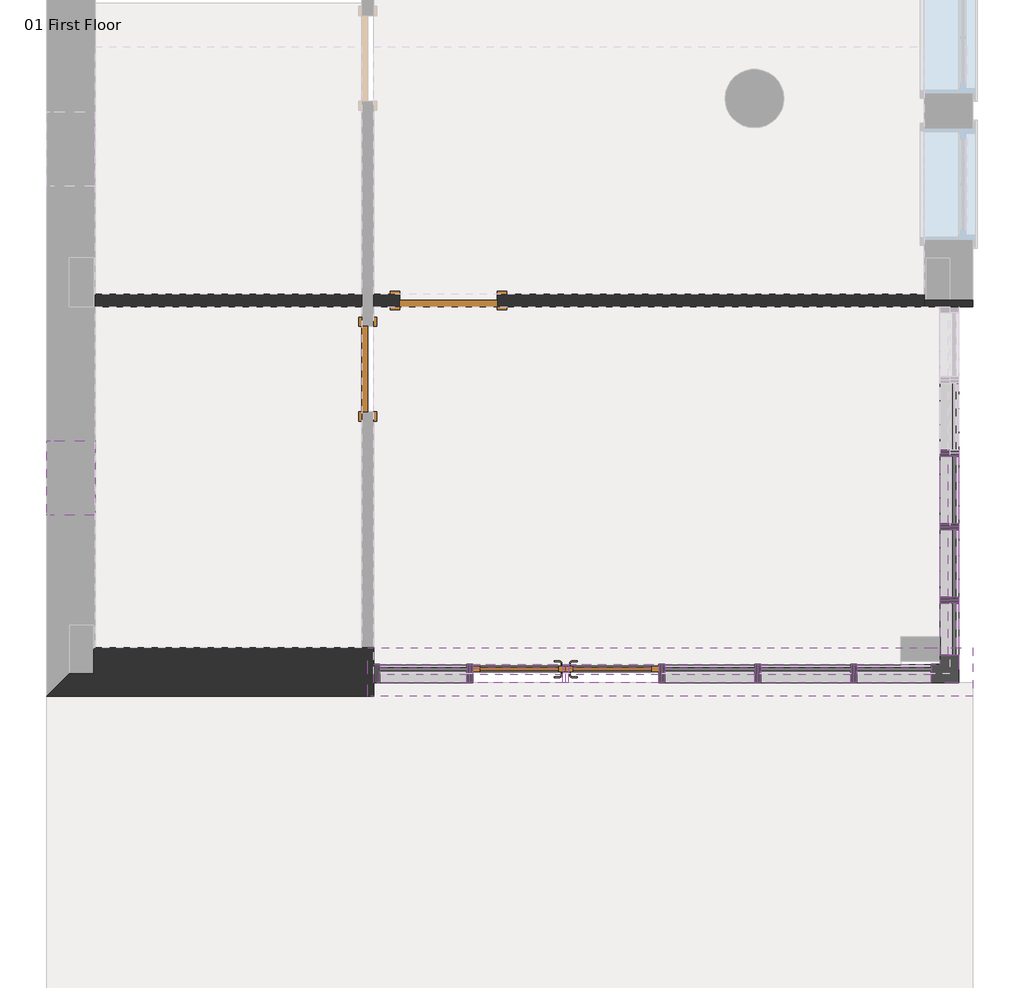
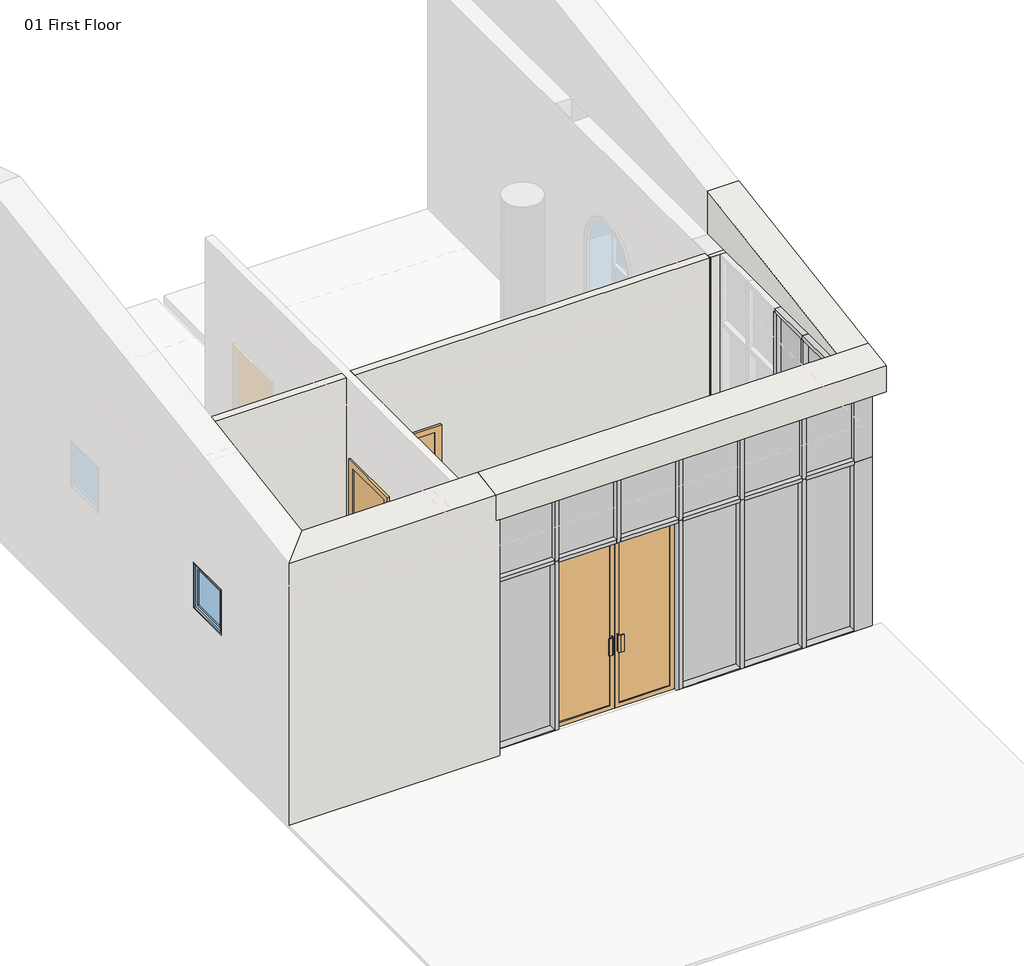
# One storey, part 1 of 3: 45 members, 16 plates, 4 walls, 3 doors, 1 window.
"""IFC4 building model written with IfcOpenShell, lengths in millimetres."""

from ifc_helpers import new_model, si_unit, origin, place, context, project, spatial, faceted_brep, transform, mapped, element, save
from components import m_door_curtain_wall_double_storefront_m_door_curtain_wall_a63655ac, m_single_flush_0700_x_2100mm_23326b45, m_single_flush_0800_x_2100mm_5931a049, l_corner_mullion_l_mullion_1_1d961c4e, l_corner_mullion_l_mullion_1_b63ad59a, rectangular_mullion_50_x_150mm_324a6438, rectangular_mullion_50_x_150mm_8753ce05, rectangular_mullion_50_x_150mm_f70f74d1, rectangular_mullion_50_x_150mm_f478ca5a, rectangular_mullion_50_x_150mm_1075d9c1, rectangular_mullion_50_x_150mm_e71c6a5f, rectangular_mullion_50_x_150mm_3a67f67c, rectangular_mullion_50_x_150mm_6f8b8c16, rectangular_mullion_50_x_150mm_ef0603af, rectangular_mullion_50_x_150mm_1d8f0c1a, rectangular_mullion_50_x_150mm_0200b82d, rectangular_mullion_50_x_150mm_2b21d210, rectangular_mullion_50_x_150mm_29e254ca, rectangular_mullion_50_x_150mm_14b52876, rectangular_mullion_50_x_150mm_9f0cf5c8, rectangular_mullion_50_x_150mm_be1420ea, rectangular_mullion_50_x_150mm_bf176b26, rectangular_mullion_50_x_150mm_20b6891b, rectangular_mullion_50_x_150mm_c032485d, rectangular_mullion_50_x_150mm_94435dd6, system_panel_glazed_9309a35e, system_panel_glazed_55cc88df, system_panel_glazed_1f9666d3, system_panel_glazed_d7ec0edf, system_panel_glazed_06e6dd14, system_panel_solid_3e9ab903, system_panel_solid_e0b174c6, system_panel_solid_286dc7ff, system_panel_solid_fd27a8c9, system_panel_solid_4de7fab2, m_fixed_0610_x_0610mm_08517cb4

model = new_model("IFC4")

# Units and contexts
model_context = context("Model", 3, world=origin())
ifc_project = project(units=[si_unit("LENGTHUNIT", "METRE", prefix="MILLI")], contexts=[model_context])

# Site, building, storey
site = spatial("IfcSite", under=ifc_project)
building = spatial("IfcBuilding", under=site)
storey = spatial("IfcBuildingStorey", under=building, Name="01 First Floor", Elevation=3500.0)

# Doors
placement = place(None, origin())
m_door_curtain_wall_double_storefront_m_door_curtain_wall_shape = m_door_curtain_wall_double_storefront_m_door_curtain_wall_a63655ac(model_context)
element("IfcDoor", 1, ObjectType="M_Door-Curtain-Wall-Double-Storefront : M_Door-Curtain-Wall-Double-Storefront", at=placement, inside=storey, context=model_context, shape_type="MappedRepresentation", body=[
    mapped(m_door_curtain_wall_double_storefront_m_door_curtain_wall_shape, transform((-4264.2074665, -3062.7101648, 3500.0), x_axis=(1.0, 0.0, 0.0), y_axis=(0.0, 1.0, 0.0), z_axis=(0.0, 0.0, 1.0))),
])
m_single_flush_0700_x_2100mm_shape = m_single_flush_0700_x_2100mm_23326b45(model_context)
element("IfcDoor", 2, ObjectType="M_Single-Flush : 0700 x 2100mm", at=placement, inside=storey, context=model_context, shape_type="MappedRepresentation", body=[
    mapped(m_single_flush_0700_x_2100mm_shape, transform((-5882.5407999, -574.1267294, 3500.0), x_axis=(0.0, 1.0, 0.0), y_axis=(-1.0, 0.0, 0.0), z_axis=(0.0, 0.0, 1.0))),
])
m_single_flush_0800_x_2100mm_shape = m_single_flush_0800_x_2100mm_5931a049(model_context)
element("IfcDoor", 3, ObjectType="M_Single-Flush : 0800 x 2100mm", at=placement, inside=storey, context=model_context, shape_type="MappedRepresentation", body=[
    mapped(m_single_flush_0800_x_2100mm_shape, transform((-5222.5407999, -12.7101648, 3500.0), x_axis=(-1.0, 0.0, 0.0), y_axis=(0.0, -1.0, 0.0), z_axis=(0.0, 0.0, 1.0))),
])

# Members
l_corner_mullion_l_mullion_1_shape = l_corner_mullion_l_mullion_1_1d961c4e(model_context)
element("IfcMember", 4, ObjectType="L Corner Mullion : L Mullion 1", at=placement, inside=storey, context=model_context, shape_type="MappedRepresentation", body=[
    mapped(l_corner_mullion_l_mullion_1_shape, transform((-1127.5407999, -3062.7101648, 5800.0), x_axis=(0.0, -1.0, 0.0), y_axis=(1.0, 0.0, 0.0), z_axis=(0.0, 0.0, 1.0))),
])
l_corner_mullion_l_mullion_1_2_shape = l_corner_mullion_l_mullion_1_b63ad59a(model_context)
element("IfcMember", 5, ObjectType="L Corner Mullion : L Mullion 1", at=placement, inside=storey, context=model_context, shape_type="MappedRepresentation", body=[
    mapped(l_corner_mullion_l_mullion_1_2_shape, transform((-1127.5407999, -3062.7101648, 6700.0), x_axis=(0.0, -1.0, 0.0), y_axis=(1.0, 0.0, 0.0), z_axis=(0.0, 0.0, 1.0))),
])
rectangular_mullion_50_x_150mm_shape = rectangular_mullion_50_x_150mm_324a6438(model_context)
element("IfcMember", 6, ObjectType="Rectangular Mullion : 50 x 150mm", at=placement, inside=storey, context=model_context, shape_type="MappedRepresentation", body=[
    mapped(rectangular_mullion_50_x_150mm_shape, transform((-5832.5407999, -3062.7101648, 6650.0), x_axis=(-1.0, 0.0, 0.0), y_axis=(0.0, -1.0, 0.0), z_axis=(0.0, 0.0, 1.0))),
])
rectangular_mullion_50_x_150mm_2_shape = rectangular_mullion_50_x_150mm_8753ce05(model_context)
element("IfcMember", 7, ObjectType="Rectangular Mullion : 50 x 150mm", at=placement, inside=storey, context=model_context, shape_type="MappedRepresentation", body=[
    mapped(rectangular_mullion_50_x_150mm_2_shape, transform((-5832.5407999, -3062.7101648, 5800.0), x_axis=(-1.0, 0.0, 0.0), y_axis=(0.0, -1.0, 0.0), z_axis=(0.0, 0.0, 1.0))),
])
rectangular_mullion_50_x_150mm_3_shape = rectangular_mullion_50_x_150mm_f70f74d1(model_context)
element("IfcMember", 8, ObjectType="Rectangular Mullion : 50 x 150mm", at=placement, inside=storey, context=model_context, shape_type="MappedRepresentation", body=[
    mapped(rectangular_mullion_50_x_150mm_3_shape, transform((-5048.3741331, -3062.7101648, 3500.0), x_axis=(1.0, 0.0, 0.0), y_axis=(0.0, -1.0, 0.0), z_axis=(0.0, 0.0, -1.0))),
])
element("IfcMember", 9, ObjectType="Rectangular Mullion : 50 x 150mm", at=placement, inside=storey, context=model_context, shape_type="MappedRepresentation", body=[
    mapped(rectangular_mullion_50_x_150mm_3_shape, transform((-3480.0407999, -3062.7101648, 3500.0), x_axis=(1.0, 0.0, 0.0), y_axis=(0.0, -1.0, 0.0), z_axis=(0.0, 0.0, -1.0))),
])
element("IfcMember", 10, ObjectType="Rectangular Mullion : 50 x 150mm", at=placement, inside=storey, context=model_context, shape_type="MappedRepresentation", body=[
    mapped(rectangular_mullion_50_x_150mm_3_shape, transform((-2695.8741334, -3062.7101648, 3500.0), x_axis=(1.0, 0.0, 0.0), y_axis=(0.0, -1.0, 0.0), z_axis=(0.0, 0.0, -1.0))),
])
element("IfcMember", 11, ObjectType="Rectangular Mullion : 50 x 150mm", at=placement, inside=storey, context=model_context, shape_type="MappedRepresentation", body=[
    mapped(rectangular_mullion_50_x_150mm_3_shape, transform((-1911.7074668, -3062.7101648, 3500.0), x_axis=(1.0, 0.0, 0.0), y_axis=(0.0, -1.0, 0.0), z_axis=(0.0, 0.0, -1.0))),
])
rectangular_mullion_50_x_150mm_4_shape = rectangular_mullion_50_x_150mm_f478ca5a(model_context)
element("IfcMember", 12, ObjectType="Rectangular Mullion : 50 x 150mm", at=placement, inside=storey, context=model_context, shape_type="MappedRepresentation", body=[
    mapped(rectangular_mullion_50_x_150mm_4_shape, transform((-5048.3741331, -3062.7101648, 5800.0), x_axis=(1.0, 0.0, 0.0), y_axis=(0.0, -1.0, 0.0), z_axis=(0.0, 0.0, -1.0))),
])
element("IfcMember", 13, ObjectType="Rectangular Mullion : 50 x 150mm", at=placement, inside=storey, context=model_context, shape_type="MappedRepresentation", body=[
    mapped(rectangular_mullion_50_x_150mm_4_shape, transform((-3480.0407999, -3062.7101648, 5800.0), x_axis=(1.0, 0.0, 0.0), y_axis=(0.0, -1.0, 0.0), z_axis=(0.0, 0.0, -1.0))),
])
element("IfcMember", 14, ObjectType="Rectangular Mullion : 50 x 150mm", at=placement, inside=storey, context=model_context, shape_type="MappedRepresentation", body=[
    mapped(rectangular_mullion_50_x_150mm_4_shape, transform((-2695.8741334, -3062.7101648, 5800.0), x_axis=(1.0, 0.0, 0.0), y_axis=(0.0, -1.0, 0.0), z_axis=(0.0, 0.0, -1.0))),
])
element("IfcMember", 15, ObjectType="Rectangular Mullion : 50 x 150mm", at=placement, inside=storey, context=model_context, shape_type="MappedRepresentation", body=[
    mapped(rectangular_mullion_50_x_150mm_4_shape, transform((-1911.7074668, -3062.7101648, 5800.0), x_axis=(1.0, 0.0, 0.0), y_axis=(0.0, -1.0, 0.0), z_axis=(0.0, 0.0, -1.0))),
])
rectangular_mullion_50_x_150mm_5_shape = rectangular_mullion_50_x_150mm_1075d9c1(model_context)
element("IfcMember", 16, ObjectType="Rectangular Mullion : 50 x 150mm", at=placement, inside=storey, context=model_context, shape_type="MappedRepresentation", body=[
    mapped(rectangular_mullion_50_x_150mm_5_shape, transform((-4264.2074665, -3062.7101648, 5775.0), x_axis=(1.0, 0.0, 0.0), y_axis=(0.0, -1.0, 0.0), z_axis=(0.0, 0.0, -1.0))),
])
element("IfcMember", 17, ObjectType="Rectangular Mullion : 50 x 150mm", at=placement, inside=storey, context=model_context, shape_type="MappedRepresentation", body=[
    mapped(rectangular_mullion_50_x_150mm_3_shape, transform((-1127.5407999, -2462.7101646, 3500.0), x_axis=(0.0, 1.0, 0.0), y_axis=(1.0, 0.0, 0.0), z_axis=(0.0, 0.0, -1.0))),
])
element("IfcMember", 18, ObjectType="Rectangular Mullion : 50 x 150mm", at=placement, inside=storey, context=model_context, shape_type="MappedRepresentation", body=[
    mapped(rectangular_mullion_50_x_150mm_3_shape, transform((-1127.5407999, -1862.7101647, 3500.0), x_axis=(0.0, 1.0, 0.0), y_axis=(1.0, 0.0, 0.0), z_axis=(0.0, 0.0, -1.0))),
])
element("IfcMember", 19, ObjectType="Rectangular Mullion : 50 x 150mm", at=placement, inside=storey, context=model_context, shape_type="MappedRepresentation", body=[
    mapped(rectangular_mullion_50_x_150mm_3_shape, transform((-1127.5407999, -1262.7101648, 3500.0), x_axis=(0.0, 1.0, 0.0), y_axis=(1.0, 0.0, 0.0), z_axis=(0.0, 0.0, -1.0))),
])
element("IfcMember", 20, ObjectType="Rectangular Mullion : 50 x 150mm", at=placement, inside=storey, context=model_context, shape_type="MappedRepresentation", body=[
    mapped(rectangular_mullion_50_x_150mm_4_shape, transform((-1127.5407999, -2462.7101646, 5800.0), x_axis=(0.0, 1.0, 0.0), y_axis=(1.0, 0.0, 0.0), z_axis=(0.0, 0.0, -1.0))),
])
element("IfcMember", 21, ObjectType="Rectangular Mullion : 50 x 150mm", at=placement, inside=storey, context=model_context, shape_type="MappedRepresentation", body=[
    mapped(rectangular_mullion_50_x_150mm_4_shape, transform((-1127.5407999, -1862.7101647, 5800.0), x_axis=(0.0, 1.0, 0.0), y_axis=(1.0, 0.0, 0.0), z_axis=(0.0, 0.0, -1.0))),
])
element("IfcMember", 22, ObjectType="Rectangular Mullion : 50 x 150mm", at=placement, inside=storey, context=model_context, shape_type="MappedRepresentation", body=[
    mapped(rectangular_mullion_50_x_150mm_4_shape, transform((-1127.5407999, -1262.7101648, 5800.0), x_axis=(0.0, 1.0, 0.0), y_axis=(1.0, 0.0, 0.0), z_axis=(0.0, 0.0, -1.0))),
])
rectangular_mullion_50_x_150mm_6_shape = rectangular_mullion_50_x_150mm_e71c6a5f(model_context)
element("IfcMember", 23, ObjectType="Rectangular Mullion : 50 x 150mm", at=placement, inside=storey, context=model_context, shape_type="MappedRepresentation", body=[
    mapped(rectangular_mullion_50_x_150mm_6_shape, transform((-1127.5407999, -2912.7101648, 3500.0), x_axis=(0.0, 0.0, -1.0), y_axis=(1.0, 0.0, 0.0), z_axis=(0.0, -1.0, 0.0))),
])
rectangular_mullion_50_x_150mm_7_shape = rectangular_mullion_50_x_150mm_3a67f67c(model_context)
element("IfcMember", 24, ObjectType="Rectangular Mullion : 50 x 150mm", at=placement, inside=storey, context=model_context, shape_type="MappedRepresentation", body=[
    mapped(rectangular_mullion_50_x_150mm_7_shape, transform((-1127.5407999, -2462.7101646, 6700.0), x_axis=(0.0, 0.0, 1.0), y_axis=(1.0, 0.0, 0.0), z_axis=(0.0, 1.0, 0.0))),
])
rectangular_mullion_50_x_150mm_8_shape = rectangular_mullion_50_x_150mm_6f8b8c16(model_context)
element("IfcMember", 25, ObjectType="Rectangular Mullion : 50 x 150mm", at=placement, inside=storey, context=model_context, shape_type="MappedRepresentation", body=[
    mapped(rectangular_mullion_50_x_150mm_8_shape, transform((-1127.5407999, -1862.7101647, 6700.0), x_axis=(0.0, 0.0, 1.0), y_axis=(1.0, 0.0, 0.0), z_axis=(0.0, 1.0, 0.0))),
])
element("IfcMember", 26, ObjectType="Rectangular Mullion : 50 x 150mm", at=placement, inside=storey, context=model_context, shape_type="MappedRepresentation", body=[
    mapped(rectangular_mullion_50_x_150mm_8_shape, transform((-1127.5407999, -1262.7101648, 6700.0), x_axis=(0.0, 0.0, 1.0), y_axis=(1.0, 0.0, 0.0), z_axis=(0.0, 1.0, 0.0))),
])
rectangular_mullion_50_x_150mm_9_shape = rectangular_mullion_50_x_150mm_ef0603af(model_context)
element("IfcMember", 27, ObjectType="Rectangular Mullion : 50 x 150mm", at=placement, inside=storey, context=model_context, shape_type="MappedRepresentation", body=[
    mapped(rectangular_mullion_50_x_150mm_9_shape, transform((-1127.5407999, -2437.7101646, 3500.0), x_axis=(0.0, 0.0, -1.0), y_axis=(1.0, 0.0, 0.0), z_axis=(0.0, -1.0, 0.0))),
])
element("IfcMember", 28, ObjectType="Rectangular Mullion : 50 x 150mm", at=placement, inside=storey, context=model_context, shape_type="MappedRepresentation", body=[
    mapped(rectangular_mullion_50_x_150mm_9_shape, transform((-1127.5407999, -1837.7101647, 3500.0), x_axis=(0.0, 0.0, -1.0), y_axis=(1.0, 0.0, 0.0), z_axis=(0.0, -1.0, 0.0))),
])
element("IfcMember", 29, ObjectType="Rectangular Mullion : 50 x 150mm", at=placement, inside=storey, context=model_context, shape_type="MappedRepresentation", body=[
    mapped(rectangular_mullion_50_x_150mm_9_shape, transform((-1127.5407999, -1237.7101648, 3500.0), x_axis=(0.0, 0.0, -1.0), y_axis=(1.0, 0.0, 0.0), z_axis=(0.0, -1.0, 0.0))),
])
rectangular_mullion_50_x_150mm_10_shape = rectangular_mullion_50_x_150mm_1d8f0c1a(model_context)
element("IfcMember", 30, ObjectType="Rectangular Mullion : 50 x 150mm", at=placement, inside=storey, context=model_context, shape_type="MappedRepresentation", body=[
    mapped(rectangular_mullion_50_x_150mm_10_shape, transform((-1127.5407999, -2487.7101646, 5800.0), x_axis=(0.0, 0.0, 1.0), y_axis=(1.0, 0.0, 0.0), z_axis=(0.0, 1.0, 0.0))),
])
rectangular_mullion_50_x_150mm_11_shape = rectangular_mullion_50_x_150mm_0200b82d(model_context)
element("IfcMember", 31, ObjectType="Rectangular Mullion : 50 x 150mm", at=placement, inside=storey, context=model_context, shape_type="MappedRepresentation", body=[
    mapped(rectangular_mullion_50_x_150mm_11_shape, transform((-1127.5407999, -1887.7101647, 5800.0), x_axis=(0.0, 0.0, 1.0), y_axis=(1.0, 0.0, 0.0), z_axis=(0.0, 1.0, 0.0))),
])
element("IfcMember", 32, ObjectType="Rectangular Mullion : 50 x 150mm", at=placement, inside=storey, context=model_context, shape_type="MappedRepresentation", body=[
    mapped(rectangular_mullion_50_x_150mm_11_shape, transform((-1127.5407999, -1287.7101648, 5800.0), x_axis=(0.0, 0.0, 1.0), y_axis=(1.0, 0.0, 0.0), z_axis=(0.0, 1.0, 0.0))),
])
rectangular_mullion_50_x_150mm_12_shape = rectangular_mullion_50_x_150mm_2b21d210(model_context)
element("IfcMember", 33, ObjectType="Rectangular Mullion : 50 x 150mm", at=placement, inside=storey, context=model_context, shape_type="MappedRepresentation", body=[
    mapped(rectangular_mullion_50_x_150mm_12_shape, transform((-1277.5407999, -3062.7101648, 6700.0), x_axis=(0.0, 0.0, 1.0), y_axis=(0.0, -1.0, 0.0), z_axis=(1.0, 0.0, 0.0))),
])
rectangular_mullion_50_x_150mm_13_shape = rectangular_mullion_50_x_150mm_29e254ca(model_context)
element("IfcMember", 34, ObjectType="Rectangular Mullion : 50 x 150mm", at=placement, inside=storey, context=model_context, shape_type="MappedRepresentation", body=[
    mapped(rectangular_mullion_50_x_150mm_13_shape, transform((-5782.5407999, -3062.7101648, 3500.0), x_axis=(0.0, 0.0, -1.0), y_axis=(0.0, -1.0, 0.0), z_axis=(-1.0, 0.0, 0.0))),
])
rectangular_mullion_50_x_150mm_14_shape = rectangular_mullion_50_x_150mm_14b52876(model_context)
element("IfcMember", 35, ObjectType="Rectangular Mullion : 50 x 150mm", at=placement, inside=storey, context=model_context, shape_type="MappedRepresentation", body=[
    mapped(rectangular_mullion_50_x_150mm_14_shape, transform((-5048.3741331, -3062.7101648, 6700.0), x_axis=(0.0, 0.0, 1.0), y_axis=(0.0, -1.0, 0.0), z_axis=(1.0, 0.0, 0.0))),
])
rectangular_mullion_50_x_150mm_15_shape = rectangular_mullion_50_x_150mm_9f0cf5c8(model_context)
element("IfcMember", 36, ObjectType="Rectangular Mullion : 50 x 150mm", at=placement, inside=storey, context=model_context, shape_type="MappedRepresentation", body=[
    mapped(rectangular_mullion_50_x_150mm_15_shape, transform((-4264.2074665, -3062.7101648, 6700.0), x_axis=(0.0, 0.0, 1.0), y_axis=(0.0, -1.0, 0.0), z_axis=(1.0, 0.0, 0.0))),
])
element("IfcMember", 37, ObjectType="Rectangular Mullion : 50 x 150mm", at=placement, inside=storey, context=model_context, shape_type="MappedRepresentation", body=[
    mapped(rectangular_mullion_50_x_150mm_15_shape, transform((-3480.0407999, -3062.7101648, 6700.0), x_axis=(0.0, 0.0, 1.0), y_axis=(0.0, -1.0, 0.0), z_axis=(1.0, 0.0, 0.0))),
])
element("IfcMember", 38, ObjectType="Rectangular Mullion : 50 x 150mm", at=placement, inside=storey, context=model_context, shape_type="MappedRepresentation", body=[
    mapped(rectangular_mullion_50_x_150mm_15_shape, transform((-2695.8741334, -3062.7101648, 6700.0), x_axis=(0.0, 0.0, 1.0), y_axis=(0.0, -1.0, 0.0), z_axis=(1.0, 0.0, 0.0))),
])
element("IfcMember", 39, ObjectType="Rectangular Mullion : 50 x 150mm", at=placement, inside=storey, context=model_context, shape_type="MappedRepresentation", body=[
    mapped(rectangular_mullion_50_x_150mm_15_shape, transform((-1911.7074668, -3062.7101648, 6700.0), x_axis=(0.0, 0.0, 1.0), y_axis=(0.0, -1.0, 0.0), z_axis=(1.0, 0.0, 0.0))),
])
rectangular_mullion_50_x_150mm_16_shape = rectangular_mullion_50_x_150mm_be1420ea(model_context)
element("IfcMember", 40, ObjectType="Rectangular Mullion : 50 x 150mm", at=placement, inside=storey, context=model_context, shape_type="MappedRepresentation", body=[
    mapped(rectangular_mullion_50_x_150mm_16_shape, transform((-3455.0407999, -3062.7101648, 3500.0), x_axis=(0.0, 0.0, -1.0), y_axis=(0.0, -1.0, 0.0), z_axis=(-1.0, 0.0, 0.0))),
])
element("IfcMember", 41, ObjectType="Rectangular Mullion : 50 x 150mm", at=placement, inside=storey, context=model_context, shape_type="MappedRepresentation", body=[
    mapped(rectangular_mullion_50_x_150mm_16_shape, transform((-2670.8741334, -3062.7101648, 3500.0), x_axis=(0.0, 0.0, -1.0), y_axis=(0.0, -1.0, 0.0), z_axis=(-1.0, 0.0, 0.0))),
])
rectangular_mullion_50_x_150mm_17_shape = rectangular_mullion_50_x_150mm_bf176b26(model_context)
element("IfcMember", 42, ObjectType="Rectangular Mullion : 50 x 150mm", at=placement, inside=storey, context=model_context, shape_type="MappedRepresentation", body=[
    mapped(rectangular_mullion_50_x_150mm_17_shape, transform((-5073.3741331, -3062.7101648, 5800.0), x_axis=(0.0, 0.0, 1.0), y_axis=(0.0, -1.0, 0.0), z_axis=(1.0, 0.0, 0.0))),
])
rectangular_mullion_50_x_150mm_18_shape = rectangular_mullion_50_x_150mm_20b6891b(model_context)
element("IfcMember", 43, ObjectType="Rectangular Mullion : 50 x 150mm", at=placement, inside=storey, context=model_context, shape_type="MappedRepresentation", body=[
    mapped(rectangular_mullion_50_x_150mm_18_shape, transform((-4289.2074665, -3062.7101648, 5800.0), x_axis=(0.0, 0.0, 1.0), y_axis=(0.0, -1.0, 0.0), z_axis=(1.0, 0.0, 0.0))),
])
element("IfcMember", 44, ObjectType="Rectangular Mullion : 50 x 150mm", at=placement, inside=storey, context=model_context, shape_type="MappedRepresentation", body=[
    mapped(rectangular_mullion_50_x_150mm_18_shape, transform((-3505.0407999, -3062.7101648, 5800.0), x_axis=(0.0, 0.0, 1.0), y_axis=(0.0, -1.0, 0.0), z_axis=(1.0, 0.0, 0.0))),
])
element("IfcMember", 45, ObjectType="Rectangular Mullion : 50 x 150mm", at=placement, inside=storey, context=model_context, shape_type="MappedRepresentation", body=[
    mapped(rectangular_mullion_50_x_150mm_18_shape, transform((-2720.8741334, -3062.7101648, 5800.0), x_axis=(0.0, 0.0, 1.0), y_axis=(0.0, -1.0, 0.0), z_axis=(1.0, 0.0, 0.0))),
])
element("IfcMember", 46, ObjectType="Rectangular Mullion : 50 x 150mm", at=placement, inside=storey, context=model_context, shape_type="MappedRepresentation", body=[
    mapped(rectangular_mullion_50_x_150mm_18_shape, transform((-1936.7074668, -3062.7101648, 5800.0), x_axis=(0.0, 0.0, 1.0), y_axis=(0.0, -1.0, 0.0), z_axis=(1.0, 0.0, 0.0))),
])
rectangular_mullion_50_x_150mm_19_shape = rectangular_mullion_50_x_150mm_c032485d(model_context)
element("IfcMember", 47, ObjectType="Rectangular Mullion : 50 x 150mm", at=placement, inside=storey, context=model_context, shape_type="MappedRepresentation", body=[
    mapped(rectangular_mullion_50_x_150mm_19_shape, transform((-1886.7074668, -3062.7101648, 3500.0), x_axis=(0.0, 0.0, -1.0), y_axis=(0.0, -1.0, 0.0), z_axis=(-1.0, 0.0, 0.0))),
])
rectangular_mullion_50_x_150mm_20_shape = rectangular_mullion_50_x_150mm_94435dd6(model_context)
element("IfcMember", 48, ObjectType="Rectangular Mullion : 50 x 150mm", at=placement, inside=storey, context=model_context, shape_type="MappedRepresentation", body=[
    mapped(rectangular_mullion_50_x_150mm_20_shape, transform((-1277.5407999, -3062.7101648, 5800.0), x_axis=(0.0, 0.0, 1.0), y_axis=(0.0, -1.0, 0.0), z_axis=(1.0, 0.0, 0.0))),
])

# Plates
system_panel_glazed_shape = system_panel_glazed_9309a35e(model_context)
element("IfcPlate", 49, ObjectType="System Panel : Glazed", at=placement, inside=storey, context=model_context, shape_type="MappedRepresentation", body=[
    mapped(system_panel_glazed_shape, transform((-1127.5407999, -2700.2101647, 3550.0), x_axis=(0.0, 1.0, 0.0), y_axis=(-1.0, 0.0, 0.0), z_axis=(0.0, 0.0, 1.0))),
])
system_panel_glazed_2_shape = system_panel_glazed_55cc88df(model_context)
element("IfcPlate", 50, ObjectType="System Panel : Glazed", at=placement, inside=storey, context=model_context, shape_type="MappedRepresentation", body=[
    mapped(system_panel_glazed_2_shape, transform((-1127.5407999, -2162.7101646, 3550.0), x_axis=(0.0, 1.0, 0.0), y_axis=(-1.0, 0.0, 0.0), z_axis=(0.0, 0.0, 1.0))),
])
element("IfcPlate", 51, ObjectType="System Panel : Glazed", at=placement, inside=storey, context=model_context, shape_type="MappedRepresentation", body=[
    mapped(system_panel_glazed_2_shape, transform((-1127.5407999, -1562.7101648, 3550.0), x_axis=(0.0, 1.0, 0.0), y_axis=(-1.0, 0.0, 0.0), z_axis=(0.0, 0.0, 1.0))),
])
system_panel_glazed_3_shape = system_panel_glazed_1f9666d3(model_context)
element("IfcPlate", 52, ObjectType="System Panel : Glazed", at=placement, inside=storey, context=model_context, shape_type="MappedRepresentation", body=[
    mapped(system_panel_glazed_3_shape, transform((-5427.9574665, -3062.7101648, 3550.0), x_axis=(1.0, 0.0, 0.0), y_axis=(0.0, 1.0, 0.0), z_axis=(0.0, 0.0, 1.0))),
])
system_panel_glazed_4_shape = system_panel_glazed_d7ec0edf(model_context)
element("IfcPlate", 53, ObjectType="System Panel : Glazed", at=placement, inside=storey, context=model_context, shape_type="MappedRepresentation", body=[
    mapped(system_panel_glazed_4_shape, transform((-3087.9574667, -3062.7101648, 3550.0), x_axis=(1.0, 0.0, 0.0), y_axis=(0.0, 1.0, 0.0), z_axis=(0.0, 0.0, 1.0))),
])
element("IfcPlate", 54, ObjectType="System Panel : Glazed", at=placement, inside=storey, context=model_context, shape_type="MappedRepresentation", body=[
    mapped(system_panel_glazed_4_shape, transform((-2303.7908001, -3062.7101648, 3550.0), x_axis=(1.0, 0.0, 0.0), y_axis=(0.0, 1.0, 0.0), z_axis=(0.0, 0.0, 1.0))),
])
system_panel_glazed_5_shape = system_panel_glazed_06e6dd14(model_context)
element("IfcPlate", 55, ObjectType="System Panel : Glazed", at=placement, inside=storey, context=model_context, shape_type="MappedRepresentation", body=[
    mapped(system_panel_glazed_5_shape, transform((-1582.1241334, -3062.7101648, 3550.0), x_axis=(1.0, 0.0, 0.0), y_axis=(0.0, 1.0, 0.0), z_axis=(0.0, 0.0, 1.0))),
])
system_panel_solid_shape = system_panel_solid_3e9ab903(model_context)
element("IfcPlate", 56, ObjectType="System Panel : Solid", at=placement, inside=storey, context=model_context, shape_type="MappedRepresentation", body=[
    mapped(system_panel_solid_shape, transform((-1127.5407999, -2700.2101647, 5825.0), x_axis=(0.0, 1.0, 0.0), y_axis=(-1.0, 0.0, 0.0), z_axis=(0.0, 0.0, 1.0))),
])
system_panel_solid_2_shape = system_panel_solid_e0b174c6(model_context)
element("IfcPlate", 57, ObjectType="System Panel : Solid", at=placement, inside=storey, context=model_context, shape_type="MappedRepresentation", body=[
    mapped(system_panel_solid_2_shape, transform((-1127.5407999, -2162.7101646, 5825.0), x_axis=(0.0, 1.0, 0.0), y_axis=(-1.0, 0.0, 0.0), z_axis=(0.0, 0.0, 1.0))),
])
element("IfcPlate", 58, ObjectType="System Panel : Solid", at=placement, inside=storey, context=model_context, shape_type="MappedRepresentation", body=[
    mapped(system_panel_solid_2_shape, transform((-1127.5407999, -1562.7101648, 5825.0), x_axis=(0.0, 1.0, 0.0), y_axis=(-1.0, 0.0, 0.0), z_axis=(0.0, 0.0, 1.0))),
])
system_panel_solid_3_shape = system_panel_solid_286dc7ff(model_context)
element("IfcPlate", 59, ObjectType="System Panel : Solid", at=placement, inside=storey, context=model_context, shape_type="MappedRepresentation", body=[
    mapped(system_panel_solid_3_shape, transform((-5427.9574665, -3062.7101648, 5825.0), x_axis=(1.0, 0.0, 0.0), y_axis=(0.0, 1.0, 0.0), z_axis=(0.0, 0.0, 1.0))),
])
system_panel_solid_4_shape = system_panel_solid_fd27a8c9(model_context)
element("IfcPlate", 60, ObjectType="System Panel : Solid", at=placement, inside=storey, context=model_context, shape_type="MappedRepresentation", body=[
    mapped(system_panel_solid_4_shape, transform((-4656.2907998, -3062.7101648, 5825.0), x_axis=(1.0, 0.0, 0.0), y_axis=(0.0, 1.0, 0.0), z_axis=(0.0, 0.0, 1.0))),
])
element("IfcPlate", 61, ObjectType="System Panel : Solid", at=placement, inside=storey, context=model_context, shape_type="MappedRepresentation", body=[
    mapped(system_panel_solid_4_shape, transform((-3872.1241332, -3062.7101648, 5825.0), x_axis=(1.0, 0.0, 0.0), y_axis=(0.0, 1.0, 0.0), z_axis=(0.0, 0.0, 1.0))),
])
element("IfcPlate", 62, ObjectType="System Panel : Solid", at=placement, inside=storey, context=model_context, shape_type="MappedRepresentation", body=[
    mapped(system_panel_solid_4_shape, transform((-3087.9574667, -3062.7101648, 5825.0), x_axis=(1.0, 0.0, 0.0), y_axis=(0.0, 1.0, 0.0), z_axis=(0.0, 0.0, 1.0))),
])
element("IfcPlate", 63, ObjectType="System Panel : Solid", at=placement, inside=storey, context=model_context, shape_type="MappedRepresentation", body=[
    mapped(system_panel_solid_4_shape, transform((-2303.7908001, -3062.7101648, 5825.0), x_axis=(1.0, 0.0, 0.0), y_axis=(0.0, 1.0, 0.0), z_axis=(0.0, 0.0, 1.0))),
])
system_panel_solid_5_shape = system_panel_solid_4de7fab2(model_context)
element("IfcPlate", 64, ObjectType="System Panel : Solid", at=placement, inside=storey, context=model_context, shape_type="MappedRepresentation", body=[
    mapped(system_panel_solid_5_shape, transform((-1582.1241334, -3062.7101648, 5825.0), x_axis=(1.0, 0.0, 0.0), y_axis=(0.0, 1.0, 0.0), z_axis=(0.0, 0.0, 1.0))),
])

# Walls
element("IfcWall", 65, ObjectType="Exterior - Brick on CMU", at=placement, inside=storey, context=model_context, shape_type="Brep", body=[
    faceted_brep([(-5832.5407999, -2849.7101648, 3500.0), (-5932.5407999, -2849.7101648, 3500.0), (-8109.5407999, -2849.7101648, 3500.0), (-8109.5407999, -2849.7101648, 6700.0), (-5932.5407999, -2849.7101648, 6700.0), (-5832.5407999, -2849.7101648, 6700.0), (-8109.5407999, -2849.7101648, 7106.4671533), (-5882.5407999, -2849.7101648, 7106.4671533), (-5882.5407999, -2849.7101648, 7000.0), (-8109.5407999, -2849.7101648, 7000.0), (-8507.5407999, -3247.7101648, 3500.0), (-5832.5407999, -3247.7101648, 3500.0), (-5832.5407999, -3247.7101648, 6700.0), (-5882.5407999, -3247.7101648, 6700.0), (-5882.5407999, -3247.7101648, 7042.5547445), (-8507.5407999, -3247.7101648, 7042.5547445), (-8322.5407999, -3062.7101648, 3500.0), (-8122.5407999, -3062.7101648, 3500.0), (-8122.5407999, -2862.7101648, 3500.0), (-8322.5407999, -3062.7101648, 7000.0), (-8122.5407999, -2862.7101648, 6700.0), (-8122.5407999, -3062.7101648, 6700.0), (-5882.5407999, -3062.7101648, 7000.0), (-5882.5407999, -3062.7101648, 6700.0)], [[[0, 1, 2, 3, 4, 5]], [[6, 7, 8, 9]], [[10, 11, 12, 13, 14, 15]], [[2, 1, 0, 11, 10, 16, 17, 18]], [[10, 15, 6, 9, 19, 16]], [[2, 18, 20, 3]], [[18, 17, 21, 20]], [[22, 23, 21, 17, 16, 19]], [[22, 19, 9, 8]], [[14, 13, 23, 22, 8, 7]], [[13, 12, 5, 4, 3, 20, 21, 23]], [[11, 0, 5, 12]], [[7, 6, 15, 14]]]),
])
element("IfcWall", 66, ObjectType="Exterior - Brick on CMU", at=placement, inside=storey, context=model_context, shape_type="Brep", body=[
    faceted_brep([(-5882.5407999, -3247.7101648, 6700.0), (-5832.5407999, -3247.7101648, 6700.0), (-937.5407999, -3247.7101648, 6700.0), (-937.5407999, -3247.7101648, 7042.5547445), (-5882.5407999, -3247.7101648, 7042.5547445), (-937.5407999, -2849.7101648, 7106.4671533), (-937.5407999, -2849.7101648, 6700.0), (-1122.5407999, -2849.7101648, 6700.0), (-1122.5407999, -2849.7101648, 7000.0), (-1335.5407999, -2849.7101648, 7000.0), (-5882.5407999, -2849.7101648, 7000.0), (-5882.5407999, -2849.7101648, 7106.4671533), (-1335.5407999, -2849.7101648, 7106.4671533), (-5882.5407999, -3062.7101648, 6700.0), (-1122.5407999, -3062.7101648, 6700.0), (-5882.5407999, -3062.7101648, 7000.0), (-1122.5407999, -3062.7101648, 7000.0)], [[[0, 1, 2, 3, 4]], [[5, 6, 7, 8, 9, 10, 11, 12]], [[2, 1, 0, 13, 14, 7, 6]], [[0, 4, 11, 10, 15, 13]], [[3, 2, 6, 5]], [[8, 16, 15, 10, 9]], [[14, 16, 8, 7]], [[16, 14, 13, 15]], [[11, 4, 3, 5, 12]]]),
])
element("IfcWall", 67, ObjectType="Exterior - Brick on CMU", at=placement, inside=storey, context=model_context, shape_type="Brep", body=[
    faceted_brep([(-937.5407999, -12.7101648, 3500.0), (-937.5407999, -12.7101648, 7562.0437956), (-937.5407999, -2849.7101648, 7106.4671533), (-937.5407999, -2849.7101648, 6700.0), (-937.5407999, -62.7101648, 6700.0), (-937.5407999, -62.7101648, 3500.0), (-1335.5407999, -2849.7101648, 7106.4671533), (-1335.5407999, -12.7101648, 7562.0437956), (-1335.5407999, -12.7101648, 7000.0), (-1335.5407999, -2849.7101648, 7000.0), (-1335.5407999, -62.7101648, 3500.0), (-1335.5407999, -62.7101648, 6700.0), (-1335.5407999, -12.7101648, 6700.0), (-1335.5407999, -12.7101648, 3500.0), (-1322.5407999, -12.7101648, 3500.0), (-1122.5407999, -12.7101648, 3500.0), (-1122.5407999, -2849.7101648, 7000.0), (-1122.5407999, -2849.7101648, 6700.0), (-1322.5407999, -12.7101648, 6700.0), (-1122.5407999, -12.7101648, 6700.0), (-1122.5407999, -12.7101648, 7000.0), (-1122.5407999, -62.7101648, 6700.0)], [[[0, 1, 2, 3, 4, 5]], [[6, 7, 8, 9]], [[10, 11, 12, 13]], [[13, 14, 15, 0, 5, 10]], [[3, 2, 6, 9, 16, 17]], [[0, 15, 14, 13, 12, 18, 19, 20, 8, 7, 1]], [[21, 19, 18, 12, 11]], [[20, 16, 9, 8]], [[19, 21, 17, 16, 20]], [[4, 3, 17, 21]], [[5, 4, 21, 11, 10]], [[7, 6, 2, 1]]]),
])
element("IfcWall", 68, ObjectType="Generic - 100mm", at=placement, inside=storey, context=model_context, shape_type="Brep", body=[
    faceted_brep([(-1335.5407999, -62.7101648, 3500.0), (-1335.5407999, -62.7101648, 6700.0), (-5832.5407999, -62.7101648, 6700.0), (-5832.5407999, -62.7101648, 3500.0), (-5622.5407999, -62.7101648, 3500.0), (-5622.5407999, -62.7101648, 5600.0), (-4822.5407999, -62.7101648, 5600.0), (-4822.5407999, -62.7101648, 3500.0), (-1335.5407999, 37.2898352, 6700.0), (-1335.5407999, 37.2898352, 3500.0), (-4822.5407999, 37.2898352, 3500.0), (-4822.5407999, 37.2898352, 5600.0), (-5622.5407999, 37.2898352, 5600.0), (-5622.5407999, 37.2898352, 3500.0), (-5832.5407999, 37.2898352, 3500.0), (-5832.5407999, 37.2898352, 6700.0), (-1335.5407999, -12.7101648, 3500.0), (-1335.5407999, -12.7101648, 6700.0)], [[[0, 1, 2, 3, 4, 5, 6, 7]], [[8, 9, 10, 11, 12, 13, 14, 15]], [[9, 16, 0, 7, 10]], [[13, 4, 3, 14]], [[1, 0, 16, 9, 8, 17]], [[3, 2, 15, 14]], [[1, 17, 8, 15, 2]], [[5, 4, 13, 12]], [[6, 5, 12, 11]], [[7, 6, 11, 10]]]),
    faceted_brep([(-8109.5407999, -62.7101648, 6700.0), (-8109.5407999, -62.7101648, 3500.0), (-5932.5407999, -62.7101648, 3500.0), (-5932.5407999, -62.7101648, 6700.0), (-8109.5407999, 37.2898352, 3500.0), (-8109.5407999, 37.2898352, 6700.0), (-5932.5407999, 37.2898352, 6700.0), (-5932.5407999, 37.2898352, 3500.0)], [[[0, 1, 2, 3]], [[4, 5, 6, 7]], [[1, 4, 7, 2]], [[3, 2, 7, 6]], [[5, 0, 3, 6]], [[1, 0, 5, 4]]]),
])

# Window
m_fixed_0610_x_0610mm_shape = m_fixed_0610_x_0610mm_08517cb4(model_context)
element("IfcWindow", 69, ObjectType="M_Fixed : 0610 x 0610mm", at=placement, inside=storey, context=model_context, shape_type="MappedRepresentation", body=[
    mapped(m_fixed_0610_x_0610mm_shape, transform((-8295.5407999, -1462.7101648, 4275.0), x_axis=(0.0, 1.0, 0.0), y_axis=(-1.0, 0.0, 0.0), z_axis=(0.0, 0.0, 1.0))),
])

save(model, "model.ifc")
